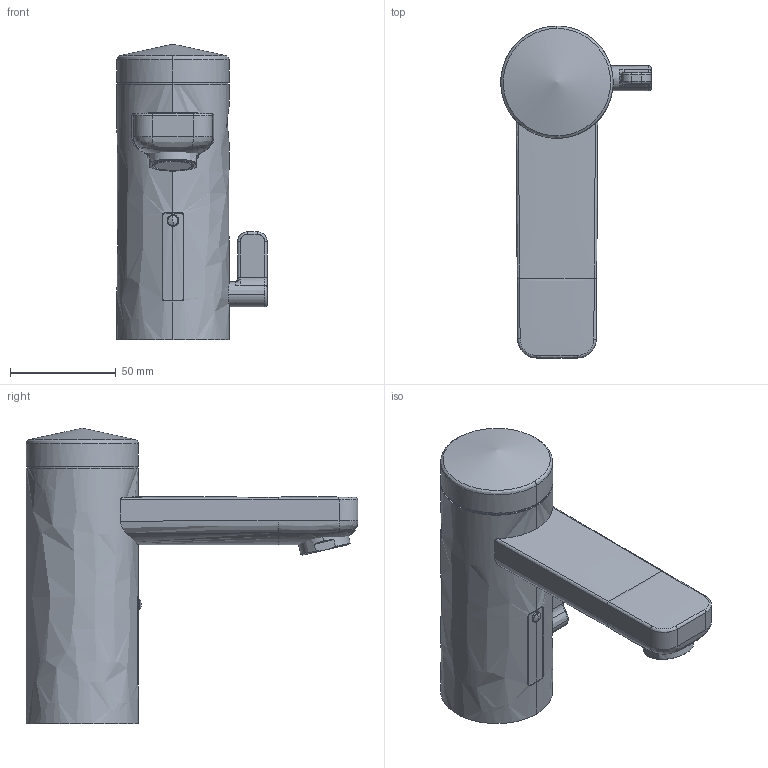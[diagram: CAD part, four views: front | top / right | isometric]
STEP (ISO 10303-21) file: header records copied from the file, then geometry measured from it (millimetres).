
FILE_DESCRIPTION(/* description */ (''),/* implementation_level */ '2;1');
FILE_NAME(/* name */ 'KWCGEN~3',/* time_stamp */ '2020-05-29T20:39:56+02:00',/* author */ (''),/* organization */ (''),/* preprocessor_version */ 'ST-DEVELOPER v15',/* originating_system */ '',/* authorisation */ '');
FILE_SCHEMA (('AUTOMOTIVE_DESIGN'));
Length unit declared in the file: millimetre
Products named in the file (4): Document; 00388; 01068_70.002.554; 00628
Assembly tree (3 placements, depth 3):
  Document
    00388
    01068_70.002.554
      00628
Bounding box: 71 x 156.67 x 139.5 mm (x, y, z)
Volume: 378158.3 mm3; surface area: 56029.9 mm2
Topology: 5 solids, 9 shells, 410 faces, 1060 edges, 659 vertices
Faces by surface type: bspline 263, plane 147
Entity records: 20289 total; most frequent: CARTESIAN_POINT 13967, ORIENTED_EDGE 2079, EDGE_CURVE 1056, VERTEX_POINT 659, B_SPLINE_CURVE_WITH_KNOTS 632, EDGE_LOOP 425, ADVANCED_FACE 410, FACE_OUTER_BOUND 410
